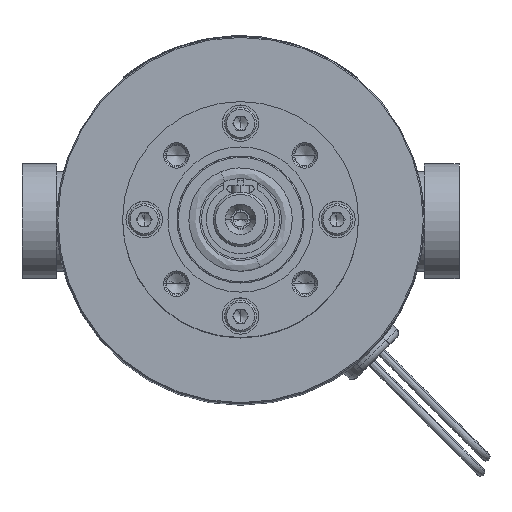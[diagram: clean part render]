
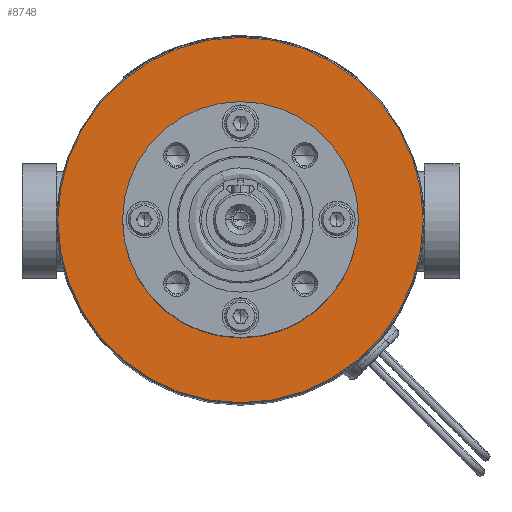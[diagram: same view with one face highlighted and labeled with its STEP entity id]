
A CAD part, top view. The second image highlights one B-rep face of the part: STEP entity #8748.
In plain terms, the highlighted planar face has unit normal (0, 0, 1).
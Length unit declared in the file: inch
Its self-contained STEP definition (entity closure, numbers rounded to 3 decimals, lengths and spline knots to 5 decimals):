
#8748 = ADVANCED_FACE ( 'NONE', ( #19958, #92498 ), #69715, .T. ) ;
#8953 = CARTESIAN_POINT ( 'NONE',  ( 0., 0., 0.477 ) ) ;
#13450 = CARTESIAN_POINT ( 'NONE',  ( 0., 1.595, 0.477 ) ) ;
#16690 = AXIS2_PLACEMENT_3D ( 'NONE', #47950, #114138, #57445 ) ;
#18477 = DIRECTION ( 'NONE',  ( 1., 0., 0. ) ) ;
#19958 = FACE_OUTER_BOUND ( 'NONE', #121829, .T. ) ;
#21644 = CIRCLE ( 'NONE', #97624, 0.9595 ) ;
#22982 = DIRECTION ( 'NONE',  ( 1., 0., 0. ) ) ;
#23548 = CARTESIAN_POINT ( 'NONE',  ( 0., 0., 0.477 ) ) ;
#24691 = CARTESIAN_POINT ( 'NONE',  ( 0.9595, 0., 0.477 ) ) ;
#33115 = DIRECTION ( 'NONE',  ( 1., 0., 0. ) ) ;
#37148 = EDGE_LOOP ( 'NONE', ( #111792, #96226 ) ) ;
#40402 = EDGE_CURVE ( 'NONE', #74387, #42539, #21644, .T. ) ;
#42539 = VERTEX_POINT ( 'NONE', #89445 ) ;
#47950 = CARTESIAN_POINT ( 'NONE',  ( 0., 0., 0.477 ) ) ;
#53664 = DIRECTION ( 'NONE',  ( 0., 0., 1. ) ) ;
#57445 = DIRECTION ( 'NONE',  ( 1., 0., 0. ) ) ;
#61109 = VERTEX_POINT ( 'NONE', #72458 ) ;
#61536 = CIRCLE ( 'NONE', #84308, 1.585 ) ;
#65377 = VERTEX_POINT ( 'NONE', #104864 ) ;
#69715 = PLANE ( 'NONE',  #97283 ) ;
#72458 = CARTESIAN_POINT ( 'NONE',  ( 1.585, 0., 0.477 ) ) ;
#74387 = VERTEX_POINT ( 'NONE', #24691 ) ;
#75125 = DIRECTION ( 'NONE',  ( 0., 0., 1. ) ) ;
#76034 = EDGE_CURVE ( 'NONE', #61109, #65377, #103928, .T. ) ;
#77709 = EDGE_CURVE ( 'NONE', #65377, #61109, #61536, .T. ) ;
#79682 = DIRECTION ( 'NONE',  ( 0., 0., 1. ) ) ;
#84308 = AXIS2_PLACEMENT_3D ( 'NONE', #8953, #75125, #18477 ) ;
#89445 = CARTESIAN_POINT ( 'NONE',  ( -0.9595, 0., 0.477 ) ) ;
#89745 = DIRECTION ( 'NONE',  ( 0., 0., 1. ) ) ;
#92498 = FACE_BOUND ( 'NONE', #37148, .T. ) ;
#92651 = ORIENTED_EDGE ( 'NONE', *, *, #76034, .T. ) ;
#96226 = ORIENTED_EDGE ( 'NONE', *, *, #120823, .F. ) ;
#97283 = AXIS2_PLACEMENT_3D ( 'NONE', #13450, #79682, #22982 ) ;
#97624 = AXIS2_PLACEMENT_3D ( 'NONE', #23548, #89745, #33115 ) ;
#103928 = CIRCLE ( 'NONE', #16690, 1.585 ) ;
#104864 = CARTESIAN_POINT ( 'NONE',  ( -1.585, 0., 0.477 ) ) ;
#110361 = CARTESIAN_POINT ( 'NONE',  ( 0., 0., 0.477 ) ) ;
#111792 = ORIENTED_EDGE ( 'NONE', *, *, #40402, .F. ) ;
#114138 = DIRECTION ( 'NONE',  ( 0., 0., 1. ) ) ;
#115252 = ORIENTED_EDGE ( 'NONE', *, *, #77709, .T. ) ;
#118324 = CIRCLE ( 'NONE', #118718, 0.9595 ) ;
#118718 = AXIS2_PLACEMENT_3D ( 'NONE', #110361, #53664, #119833 ) ;
#119833 = DIRECTION ( 'NONE',  ( 1., 0., 0. ) ) ;
#120823 = EDGE_CURVE ( 'NONE', #42539, #74387, #118324, .T. ) ;
#121829 = EDGE_LOOP ( 'NONE', ( #115252, #92651 ) ) ;
